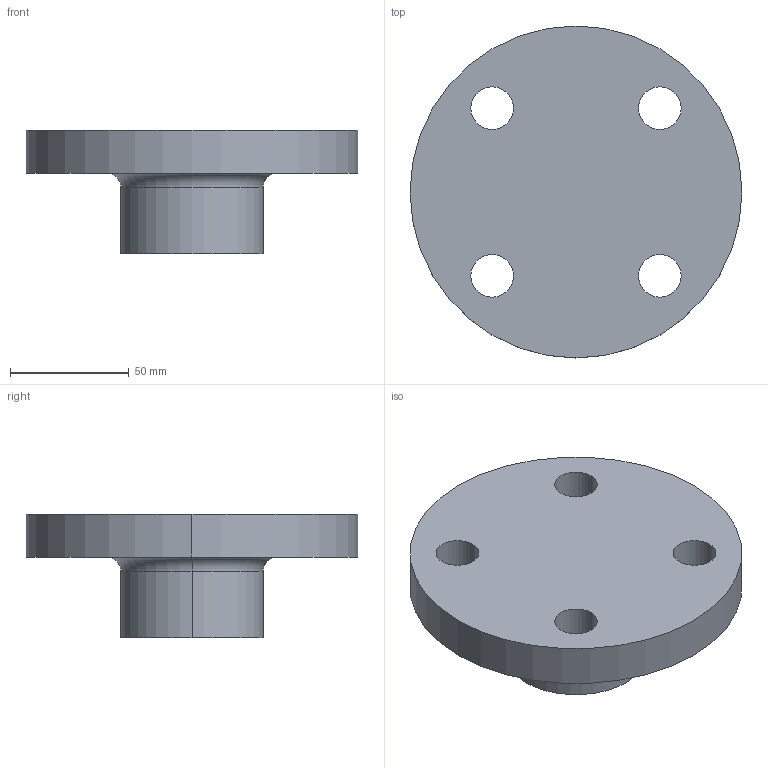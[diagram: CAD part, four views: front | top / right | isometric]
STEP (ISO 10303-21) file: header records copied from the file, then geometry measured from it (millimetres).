
FILE_DESCRIPTION (( 'STEP AP214' ), '1' );
FILE_NAME ('PN40 DN32 Type 21(i) - Type A Face.STEP', '2018-12-29T23:50:50', ( '' ), ( '' ), 'SwSTEP 2.0', 'SolidWorks 2019', '' );
FILE_SCHEMA (( 'AUTOMOTIVE_DESIGN' ));
Length unit declared in the file: millimetre
Products named in the file (1): PN40 DN32 Type 21(i) - Type A Face
Bounding box: 140 x 140 x 52 mm (x, y, z)
Volume: 356420.7 mm3; surface area: 46679.6 mm2
Topology: 1 solids, 1 shells, 17 faces, 40 edges, 26 vertices
Faces by surface type: cylinder 12, plane 3, torus 2
Entity records: 556 total; most frequent: DIRECTION 104, CARTESIAN_POINT 84, ORIENTED_EDGE 80, AXIS2_PLACEMENT_3D 46, EDGE_CURVE 40, CIRCLE 28, EDGE_LOOP 26, VERTEX_POINT 26
